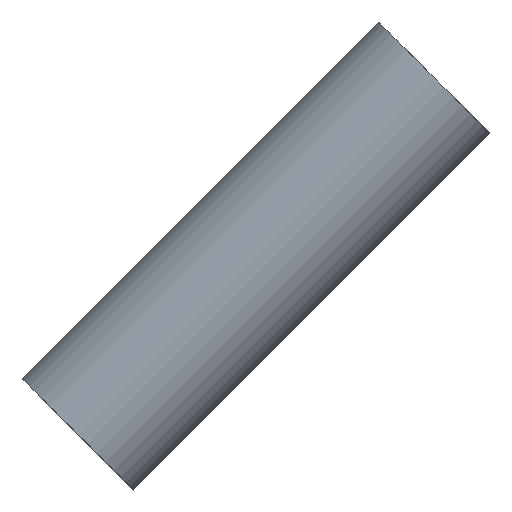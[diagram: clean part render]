
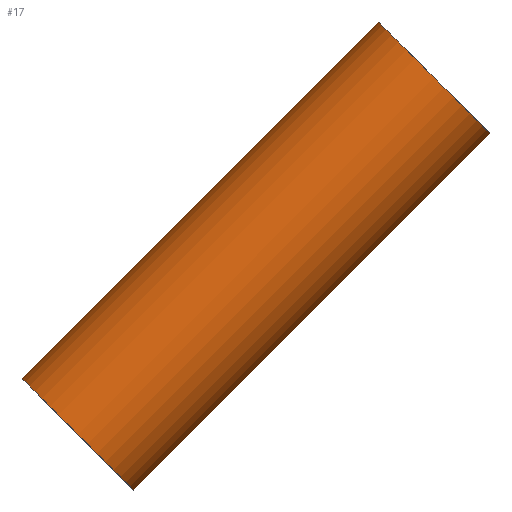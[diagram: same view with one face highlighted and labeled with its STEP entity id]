
A CAD part, front view. The second image highlights one B-rep face of the part: STEP entity #17.
In plain terms, the highlighted cylindrical face has radius 2.5 mm (diameter 5 mm), a full revolution.
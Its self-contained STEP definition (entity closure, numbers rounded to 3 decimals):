
#17 = ADVANCED_FACE('',(#18),#32,.T.);
#18 = FACE_BOUND('',#19,.F.);
#19 = EDGE_LOOP('',(#20,#50,#77,#78));
#20 = ORIENTED_EDGE('',*,*,#21,.T.);
#21 = EDGE_CURVE('',#22,#24,#26,.T.);
#22 = VERTEX_POINT('',#23);
#23 = CARTESIAN_POINT('',(-26.725,31.7,14.575));
#24 = VERTEX_POINT('',#25);
#25 = CARTESIAN_POINT('',(-15.425,31.7,25.875));
#26 = SEAM_CURVE('',#27,(#31,#43),.PCURVE_S1.);
#27 = LINE('',#28,#29);
#28 = CARTESIAN_POINT('',(-26.725,31.7,14.575));
#29 = VECTOR('',#30,1.);
#30 = DIRECTION('',(0.707,0.,0.707));
#31 = PCURVE('',#32,#37);
#32 = CYLINDRICAL_SURFACE('',#33,2.5);
#33 = AXIS2_PLACEMENT_3D('',#34,#35,#36);
#34 = CARTESIAN_POINT('',(-26.725,34.2,14.575));
#35 = DIRECTION('',(-0.707,-0.,-0.707));
#36 = DIRECTION('',(0.,-1.,0.));
#37 = DEFINITIONAL_REPRESENTATION('',(#38),#42);
#38 = LINE('',#39,#40);
#39 = CARTESIAN_POINT('',(-0.,0.));
#40 = VECTOR('',#41,1.);
#41 = DIRECTION('',(-0.,-1.));
#42 = ( GEOMETRIC_REPRESENTATION_CONTEXT(2) 
PARAMETRIC_REPRESENTATION_CONTEXT() REPRESENTATION_CONTEXT('2D SPACE',''
  ) );
#43 = PCURVE('',#32,#44);
#44 = DEFINITIONAL_REPRESENTATION('',(#45),#49);
#45 = LINE('',#46,#47);
#46 = CARTESIAN_POINT('',(-6.283,0.));
#47 = VECTOR('',#48,1.);
#48 = DIRECTION('',(-0.,-1.));
#49 = ( GEOMETRIC_REPRESENTATION_CONTEXT(2) 
PARAMETRIC_REPRESENTATION_CONTEXT() REPRESENTATION_CONTEXT('2D SPACE',''
  ) );
#50 = ORIENTED_EDGE('',*,*,#51,.T.);
#51 = EDGE_CURVE('',#24,#24,#52,.T.);
#52 = SURFACE_CURVE('',#53,(#58,#65),.PCURVE_S1.);
#53 = CIRCLE('',#54,2.5);
#54 = AXIS2_PLACEMENT_3D('',#55,#56,#57);
#55 = CARTESIAN_POINT('',(-15.425,34.2,25.875));
#56 = DIRECTION('',(0.707,0.,0.707));
#57 = DIRECTION('',(0.,-1.,0.));
#58 = PCURVE('',#32,#59);
#59 = DEFINITIONAL_REPRESENTATION('',(#60),#64);
#60 = LINE('',#61,#62);
#61 = CARTESIAN_POINT('',(-0.,-15.98));
#62 = VECTOR('',#63,1.);
#63 = DIRECTION('',(-1.,0.));
#64 = ( GEOMETRIC_REPRESENTATION_CONTEXT(2) 
PARAMETRIC_REPRESENTATION_CONTEXT() REPRESENTATION_CONTEXT('2D SPACE',''
  ) );
#65 = PCURVE('',#66,#71);
#66 = PLANE('',#67);
#67 = AXIS2_PLACEMENT_3D('',#68,#69,#70);
#68 = CARTESIAN_POINT('',(-15.425,34.2,25.875));
#69 = DIRECTION('',(0.707,0.,0.707));
#70 = DIRECTION('',(0.707,0.,-0.707));
#71 = DEFINITIONAL_REPRESENTATION('',(#72),#76);
#72 = CIRCLE('',#73,2.5);
#73 = AXIS2_PLACEMENT_2D('',#74,#75);
#74 = CARTESIAN_POINT('',(0.,0.));
#75 = DIRECTION('',(0.,-1.));
#76 = ( GEOMETRIC_REPRESENTATION_CONTEXT(2) 
PARAMETRIC_REPRESENTATION_CONTEXT() REPRESENTATION_CONTEXT('2D SPACE',''
  ) );
#77 = ORIENTED_EDGE('',*,*,#21,.F.);
#78 = ORIENTED_EDGE('',*,*,#79,.F.);
#79 = EDGE_CURVE('',#22,#22,#80,.T.);
#80 = SURFACE_CURVE('',#81,(#86,#93),.PCURVE_S1.);
#81 = CIRCLE('',#82,2.5);
#82 = AXIS2_PLACEMENT_3D('',#83,#84,#85);
#83 = CARTESIAN_POINT('',(-26.725,34.2,14.575));
#84 = DIRECTION('',(0.707,0.,0.707));
#85 = DIRECTION('',(0.,-1.,0.));
#86 = PCURVE('',#32,#87);
#87 = DEFINITIONAL_REPRESENTATION('',(#88),#92);
#88 = LINE('',#89,#90);
#89 = CARTESIAN_POINT('',(-0.,0.));
#90 = VECTOR('',#91,1.);
#91 = DIRECTION('',(-1.,0.));
#92 = ( GEOMETRIC_REPRESENTATION_CONTEXT(2) 
PARAMETRIC_REPRESENTATION_CONTEXT() REPRESENTATION_CONTEXT('2D SPACE',''
  ) );
#93 = PCURVE('',#94,#99);
#94 = PLANE('',#95);
#95 = AXIS2_PLACEMENT_3D('',#96,#97,#98);
#96 = CARTESIAN_POINT('',(-26.725,34.2,14.575));
#97 = DIRECTION('',(0.707,0.,0.707));
#98 = DIRECTION('',(0.707,0.,-0.707));
#99 = DEFINITIONAL_REPRESENTATION('',(#100),#104);
#100 = CIRCLE('',#101,2.5);
#101 = AXIS2_PLACEMENT_2D('',#102,#103);
#102 = CARTESIAN_POINT('',(0.,0.));
#103 = DIRECTION('',(0.,-1.));
#104 = ( GEOMETRIC_REPRESENTATION_CONTEXT(2) 
PARAMETRIC_REPRESENTATION_CONTEXT() REPRESENTATION_CONTEXT('2D SPACE',''
  ) );
